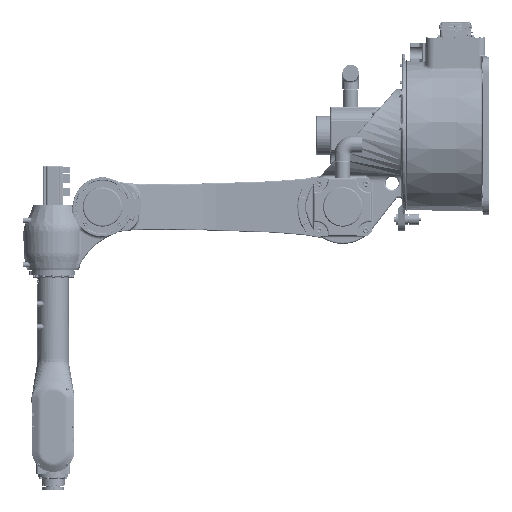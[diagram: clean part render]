
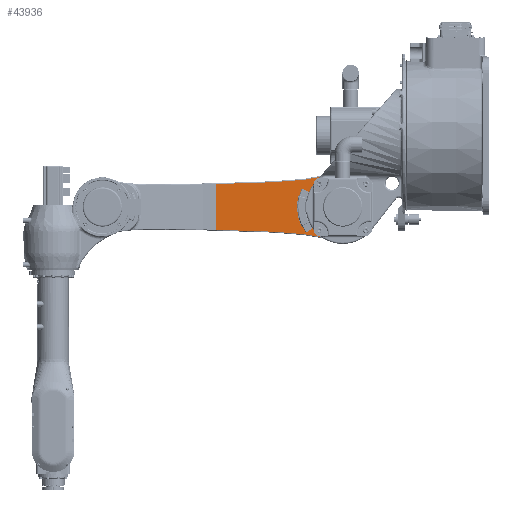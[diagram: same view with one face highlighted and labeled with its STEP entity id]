
A CAD part, left-side view. The second image highlights one B-rep face of the part: STEP entity #43936.
In plain terms, the highlighted planar face has unit normal (-1, 0, 0) as drawn and (0, 0, -1) by its records, which use the part's own axes.
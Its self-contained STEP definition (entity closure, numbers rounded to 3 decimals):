
#43936=ADVANCED_FACE('NONE',(#89237,#89238,#89239),#89240,.F.);
#89237=FACE_OUTER_BOUND('',#259851,.T.);
#89238=FACE_BOUND('',#259852,.T.);
#89239=FACE_BOUND('',#259853,.T.);
#89240=PLANE('',#259854);
#259851=EDGE_LOOP('',(#366678,#366679,#366680,#366681,#366682,#366683,#366684));
#259852=EDGE_LOOP('',(#366685,#366686));
#259853=EDGE_LOOP('',(#366687,#366688,#366689,#366690,#366691,#366692,#366693,#366694,#366695,#366696,#366697,#366698));
#259854=AXIS2_PLACEMENT_3D('',#366699,#366700,#366701);
#366678=ORIENTED_EDGE('',*,*,#456242,.T.);
#366679=ORIENTED_EDGE('',*,*,#454913,.T.);
#366680=ORIENTED_EDGE('',*,*,#457530,.T.);
#366681=ORIENTED_EDGE('',*,*,#454908,.T.);
#366682=ORIENTED_EDGE('',*,*,#456248,.T.);
#366683=ORIENTED_EDGE('',*,*,#454034,.T.);
#366684=ORIENTED_EDGE('',*,*,#454039,.T.);
#366685=ORIENTED_EDGE('',*,*,#454870,.T.);
#366686=ORIENTED_EDGE('',*,*,#456310,.T.);
#366687=ORIENTED_EDGE('',*,*,#456367,.T.);
#366688=ORIENTED_EDGE('',*,*,#454137,.T.);
#366689=ORIENTED_EDGE('',*,*,#456360,.T.);
#366690=ORIENTED_EDGE('',*,*,#454858,.T.);
#366691=ORIENTED_EDGE('',*,*,#456363,.T.);
#366692=ORIENTED_EDGE('',*,*,#454132,.T.);
#366693=ORIENTED_EDGE('',*,*,#456371,.T.);
#366694=ORIENTED_EDGE('',*,*,#456377,.T.);
#366695=ORIENTED_EDGE('',*,*,#456385,.T.);
#366696=ORIENTED_EDGE('',*,*,#456380,.T.);
#366697=ORIENTED_EDGE('',*,*,#454851,.T.);
#366698=ORIENTED_EDGE('',*,*,#456374,.T.);
#366699=CARTESIAN_POINT('',(-123.16,316.481,28.591));
#366700=DIRECTION('',(0.0,0.,1.0));
#366701=DIRECTION('',(1.0,0.0,0.0));
#454034=EDGE_CURVE('NONE',#542961,#542959,#542962,.T.);
#454039=EDGE_CURVE('NONE',#542959,#542967,#542969,.T.);
#454132=EDGE_CURVE('NONE',#543145,#543142,#543146,.T.);
#454137=EDGE_CURVE('NONE',#543154,#543151,#543155,.T.);
#454851=EDGE_CURVE('NONE',#544401,#544402,#544403,.T.);
#454858=EDGE_CURVE('NONE',#544415,#544413,#544416,.T.);
#454870=EDGE_CURVE('NONE',#544433,#544431,#544434,.T.);
#454908=EDGE_CURVE('NONE',#544489,#544494,#544496,.T.);
#454913=EDGE_CURVE('NONE',#544498,#544503,#544505,.T.);
#456242=EDGE_CURVE('NONE',#542967,#544498,#546378,.T.);
#456248=EDGE_CURVE('NONE',#544494,#542961,#546385,.T.);
#456310=EDGE_CURVE('NONE',#544431,#544433,#546462,.T.);
#456360=EDGE_CURVE('NONE',#543151,#544415,#546536,.T.);
#456363=EDGE_CURVE('NONE',#544413,#543145,#546539,.T.);
#456367=EDGE_CURVE('NONE',#546541,#543154,#546544,.T.);
#456371=EDGE_CURVE('NONE',#543142,#546548,#546550,.T.);
#456374=EDGE_CURVE('NONE',#544402,#546541,#546553,.T.);
#456377=EDGE_CURVE('NONE',#546548,#546556,#546558,.T.);
#456380=EDGE_CURVE('NONE',#546561,#544401,#546562,.T.);
#456385=EDGE_CURVE('NONE',#546556,#546561,#546567,.T.);
#457530=EDGE_CURVE('NONE',#544503,#544489,#548131,.T.);
#542959=VERTEX_POINT('',#756795);
#542961=VERTEX_POINT('NONE',#756797);
#542962=CIRCLE('',#756798,101.783);
#542967=VERTEX_POINT('NONE',#756803);
#542969=CIRCLE('',#756805,101.783);
#543142=VERTEX_POINT('',#757724);
#543145=VERTEX_POINT('NONE',#757727);
#543146=CIRCLE('',#757728,5.0);
#543151=VERTEX_POINT('',#757733);
#543154=VERTEX_POINT('NONE',#757736);
#543155=CIRCLE('',#757737,5.0);
#544401=VERTEX_POINT('NONE',#759653);
#544402=VERTEX_POINT('NONE',#759654);
#544403=CIRCLE('',#759655,138.5);
#544413=VERTEX_POINT('NONE',#759665);
#544415=VERTEX_POINT('NONE',#759667);
#544416=CIRCLE('',#759668,110.5);
#544431=VERTEX_POINT('NONE',#759683);
#544433=VERTEX_POINT('NONE',#759686);
#544434=CIRCLE('',#759687,80.577);
#544489=VERTEX_POINT('NONE',#759759);
#544494=VERTEX_POINT('NONE',#759765);
#544496=LINE('',#759767,#759768);
#544498=VERTEX_POINT('NONE',#759770);
#544503=VERTEX_POINT('NONE',#759776);
#544505=LINE('',#759778,#759779);
#546378=B_SPLINE_CURVE_WITH_KNOTS('',3,(#763358,#763359,#763360,#763361,#763362),.UNSPECIFIED.,.F.,.F.,(4,1,4),(0.0,0.095,0.189),.UNSPECIFIED.);
#546385=B_SPLINE_CURVE_WITH_KNOTS('',3,(#763382,#763383,#763384,#763385,#763386),.UNSPECIFIED.,.F.,.F.,(4,1,4),(0.0,0.095,0.189),.UNSPECIFIED.);
#546462=CIRCLE('',#763558,80.577);
#546536=CIRCLE('',#763698,5.0);
#546539=CIRCLE('',#763701,110.5);
#546541=VERTEX_POINT('NONE',#763703);
#546544=LINE('',#763707,#763708);
#546548=VERTEX_POINT('NONE',#763712);
#546550=CIRCLE('',#763714,5.0);
#546553=CIRCLE('',#763717,5.0);
#546556=VERTEX_POINT('NONE',#763720);
#546558=LINE('',#763722,#763723);
#546561=VERTEX_POINT('NONE',#763727);
#546562=CIRCLE('',#763728,138.5);
#546567=CIRCLE('',#763733,5.0);
#548131=LINE('',#769411,#769412);
#756795=CARTESIAN_POINT('',(0.,823.264,28.591));
#756797=CARTESIAN_POINT('',(-99.272,699.013,28.591));
#756798=AXIS2_PLACEMENT_3D('',#854209,#854210,#854211);
#756803=CARTESIAN_POINT('',(99.272,699.013,28.591));
#756805=AXIS2_PLACEMENT_3D('',#854221,#854222,#854223);
#757724=CARTESIAN_POINT('',(-46.077,620.569,28.591));
#757727=CARTESIAN_POINT('',(-44.082,620.154,28.591));
#757728=AXIS2_PLACEMENT_3D('',#854304,#854305,#854306);
#757733=CARTESIAN_POINT('',(25.022,613.723,28.591));
#757736=CARTESIAN_POINT('',(29.873,609.933,28.591));
#757737=AXIS2_PLACEMENT_3D('',#854316,#854317,#854318);
#759653=CARTESIAN_POINT('',(0.,582.981,28.591));
#759654=CARTESIAN_POINT('',(30.478,586.376,28.591));
#759655=AXIS2_PLACEMENT_3D('',#855531,#855532,#855533);
#759665=CARTESIAN_POINT('',(0.,610.981,28.591));
#759667=CARTESIAN_POINT('',(23.938,613.605,28.591));
#759668=AXIS2_PLACEMENT_3D('',#855549,#855550,#855551);
#759683=CARTESIAN_POINT('',(80.577,721.481,28.591));
#759686=CARTESIAN_POINT('',(-80.577,721.481,28.591));
#759687=AXIS2_PLACEMENT_3D('',#855574,#855575,#855576);
#759759=CARTESIAN_POINT('',(-69.402,337.459,28.591));
#759765=CARTESIAN_POINT('',(-75.137,511.175,28.591));
#759767=CARTESIAN_POINT('',(-68.768,318.276,28.591));
#759768=VECTOR('',#855625,1000.0);
#759770=CARTESIAN_POINT('',(75.137,511.175,28.591));
#759776=CARTESIAN_POINT('',(69.402,337.459,28.591));
#759778=CARTESIAN_POINT('',(68.5,310.152,28.591));
#759779=VECTOR('',#855633,1000.0);
#763358=CARTESIAN_POINT('',(99.272,699.013,28.591));
#763359=CARTESIAN_POINT('',(92.274,668.089,28.591));
#763360=CARTESIAN_POINT('',(81.273,605.856,28.591));
#763361=CARTESIAN_POINT('',(76.184,542.864,28.591));
#763362=CARTESIAN_POINT('',(75.137,511.175,28.591));
#763382=CARTESIAN_POINT('',(-75.137,511.175,28.591));
#763383=CARTESIAN_POINT('',(-76.184,542.864,28.591));
#763384=CARTESIAN_POINT('',(-81.273,605.856,28.591));
#763385=CARTESIAN_POINT('',(-92.274,668.089,28.591));
#763386=CARTESIAN_POINT('',(-99.272,699.013,28.591));
#763558=AXIS2_PLACEMENT_3D('',#857307,#857308,#857309);
#763698=AXIS2_PLACEMENT_3D('',#857385,#857386,#857387);
#763701=AXIS2_PLACEMENT_3D('',#857391,#857392,#857393);
#763703=CARTESIAN_POINT('',(34.229,592.463,28.591));
#763707=CARTESIAN_POINT('',(89.801,369.578,28.591));
#763708=VECTOR('',#857398,1000.0);
#763712=CARTESIAN_POINT('',(-50.609,617.683,28.591));
#763714=AXIS2_PLACEMENT_3D('',#857405,#857406,#857407);
#763717=AXIS2_PLACEMENT_3D('',#857411,#857412,#857413);
#763720=CARTESIAN_POINT('',(-58.218,601.364,28.591));
#763722=CARTESIAN_POINT('',(-178.934,342.488,28.591));
#763723=VECTOR('',#857417,1000.);
#763727=CARTESIAN_POINT('',(-55.697,594.673,28.591));
#763728=AXIS2_PLACEMENT_3D('',#857419,#857420,#857421);
#763733=AXIS2_PLACEMENT_3D('',#857431,#857432,#857433);
#769411=CARTESIAN_POINT('',(-71.928,337.459,28.591));
#769412=VECTOR('',#858409,1000.0);
#854209=CARTESIAN_POINT('',(0.,721.481,28.591));
#854210=DIRECTION('',(0.,0.,-1.0));
#854211=DIRECTION('',(0.,-1.0,0.0));
#854221=CARTESIAN_POINT('',(0.,721.481,28.591));
#854222=DIRECTION('',(0.,0.,-1.0));
#854223=DIRECTION('',(0.,-1.0,0.0));
#854304=CARTESIAN_POINT('',(-46.077,615.569,28.591));
#854305=DIRECTION('',(0.0,0.0,1.0));
#854306=DIRECTION('',(0.0,-1.0,0.0));
#854316=CARTESIAN_POINT('',(25.022,608.723,28.591));
#854317=DIRECTION('',(0.0,0.0,1.0));
#854318=DIRECTION('',(0.0,-1.0,0.0));
#855531=CARTESIAN_POINT('',(0.,721.481,28.591));
#855532=DIRECTION('',(0.0,0.0,1.0));
#855533=DIRECTION('',(0.0,-1.0,0.0));
#855549=CARTESIAN_POINT('',(0.,721.481,28.591));
#855550=DIRECTION('',(0.,0.,-1.0));
#855551=DIRECTION('',(0.,-1.0,0.));
#855574=CARTESIAN_POINT('',(0.0,721.481,28.591));
#855575=DIRECTION('',(0.0,0.0,1.0));
#855576=DIRECTION('',(0.0,-1.0,0.0));
#855625=DIRECTION('',(-0.033,0.999,0.));
#855633=DIRECTION('',(-0.033,-0.999,0.));
#857307=CARTESIAN_POINT('',(0.0,721.481,28.591));
#857308=DIRECTION('',(0.0,0.0,1.0));
#857309=DIRECTION('',(0.0,-1.0,0.0));
#857385=CARTESIAN_POINT('',(25.022,608.723,28.591));
#857386=DIRECTION('',(0.0,0.0,1.0));
#857387=DIRECTION('',(0.0,-1.0,0.0));
#857391=CARTESIAN_POINT('',(0.,721.481,28.591));
#857392=DIRECTION('',(-0.0,-0.0,-1.0));
#857393=DIRECTION('',(0.0,-1.0,0.0));
#857398=DIRECTION('',(-0.242,0.97,0.));
#857405=CARTESIAN_POINT('',(-46.077,615.569,28.591));
#857406=DIRECTION('',(0.0,0.0,1.0));
#857407=DIRECTION('',(0.0,-1.0,0.0));
#857411=CARTESIAN_POINT('',(29.378,591.253,28.591));
#857412=DIRECTION('',(0.0,0.0,1.0));
#857413=DIRECTION('',(0.0,-1.0,0.0));
#857417=DIRECTION('',(-0.423,-0.906,0.));
#857419=CARTESIAN_POINT('',(0.,721.481,28.591));
#857420=DIRECTION('',(0.0,0.0,1.0));
#857421=DIRECTION('',(0.0,-1.0,0.0));
#857431=CARTESIAN_POINT('',(-53.686,599.251,28.591));
#857432=DIRECTION('',(0.0,0.0,1.0));
#857433=DIRECTION('',(0.0,-1.0,0.0));
#858409=DIRECTION('',(-1.0,-0.0,-0.0));
